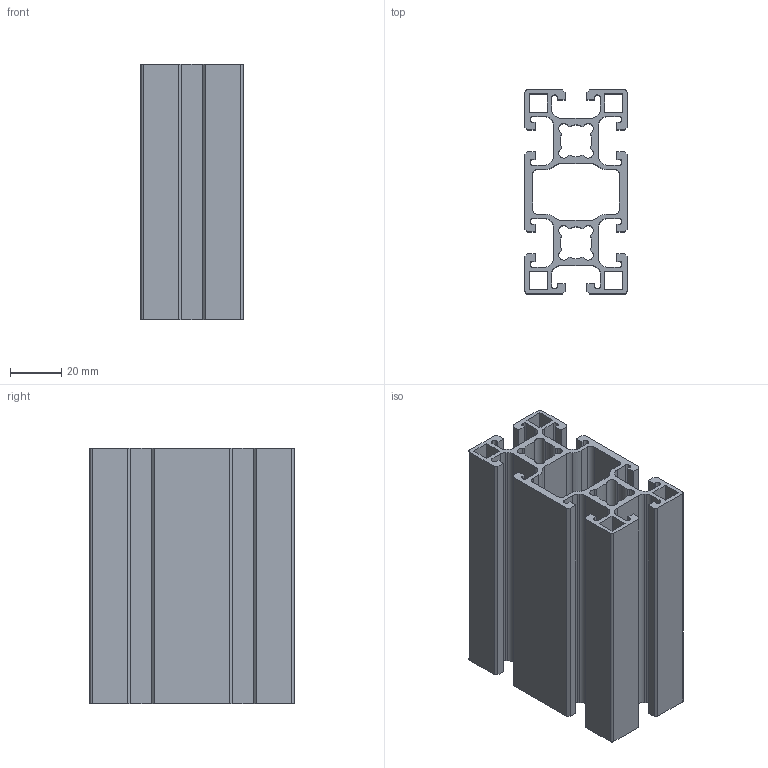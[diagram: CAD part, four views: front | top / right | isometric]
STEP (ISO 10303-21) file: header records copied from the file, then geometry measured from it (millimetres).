
FILE_DESCRIPTION((''),'2;1');
FILE_NAME('C:\Users\de2afr0\Desktop\New folder\MS40+ B 40x80.stp','2014-02-28T13:11:20',('de2afr0'),(''),'Autodesk Inventor 2011','Autodesk Inventor 2011','');
FILE_SCHEMA(('AUTOMOTIVE_DESIGN { 1 0 10303 214 1 1 1 1 }'));
Length unit declared in the file: millimetre
Products named in the file (1): MB01159301
Bounding box: 40 x 80 x 100 mm (x, y, z)
Volume: 94429.1 mm3; surface area: 85835.2 mm2
Topology: 1 solids, 1 shells, 226 faces, 672 edges, 448 vertices
Faces by surface type: plane 146, cylinder 80
Entity records: 7630 total; most frequent: CARTESIAN_POINT 1347, ORIENTED_EDGE 1344, DIRECTION 1286, EDGE_CURVE 672, VECTOR 512, LINE 512, VERTEX_POINT 448, AXIS2_PLACEMENT_3D 387
